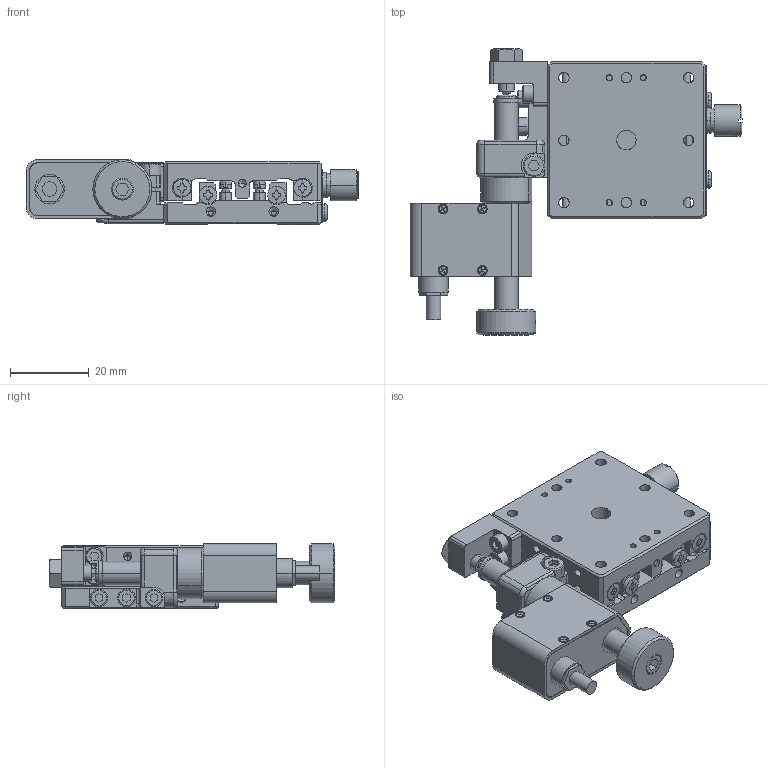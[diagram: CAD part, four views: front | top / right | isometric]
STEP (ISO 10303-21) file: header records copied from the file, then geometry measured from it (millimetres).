
FILE_DESCRIPTION (( 'STEP AP214' ), '1' );
FILE_NAME ('TSD-401SUU-PDM.STEP', '2024-06-12T10:23:12', ( '' ), ( '' ), 'SwSTEP 2.0', 'SolidWorks 2023', '' );
FILE_SCHEMA (( 'AUTOMOTIVE_DESIGN' ));
Length unit declared in the file: millimetre
Products named in the file (7): TSD-401SUU-PDM; TSD-401SUU-C1B-S07; TSD-401SUU; PDM13ACT-M02-20001-P01; PDM13ACT-M02-20001-S02; PDM-13ACT; TSD-401SUU-C1B-S08
Assembly tree (6 placements, depth 3):
  TSD-401SUU-PDM
    TSD-401SUU
      TSD-401SUU-C1B-S07
      TSD-401SUU-C1B-S08
    PDM-13ACT
      PDM13ACT-M02-20001-P01
      PDM13ACT-M02-20001-S02
Bounding box: 84.4 x 72.7 x 16.55 mm (x, y, z)
Volume: 35990.6 mm3; surface area: 21849.1 mm2
Topology: 19 solids, 32 shells, 1319 faces, 3318 edges, 2113 vertices
Faces by surface type: plane 564, cylinder 520, cone 203, sphere 22, torus 7, bspline 3
Entity records: 47078 total; most frequent: CARTESIAN_POINT 16535, ORIENTED_EDGE 6512, DIRECTION 5772, EDGE_CURVE 3256, AXIS2_PLACEMENT_3D 2170, VERTEX_POINT 2109, EDGE_LOOP 1515, LINE 1432
